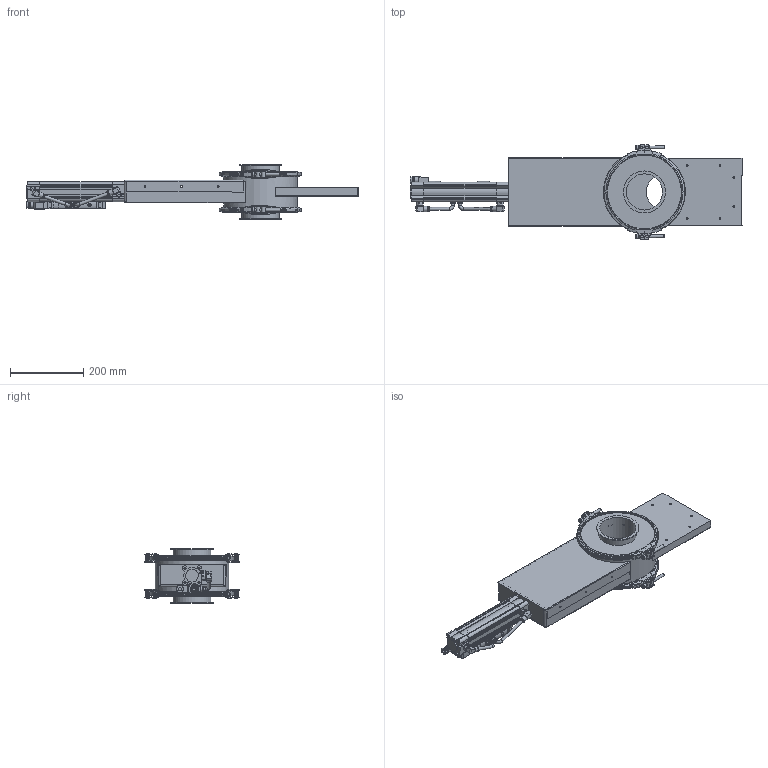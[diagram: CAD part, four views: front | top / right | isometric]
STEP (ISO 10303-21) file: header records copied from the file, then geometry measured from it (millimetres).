
FILE_DESCRIPTION((''),'2;1');
FILE_NAME('U:\Wolfgang\Marcel-3D\fertig\Kapitel 9\1021093.stp','2011-10-11T12:57:26',('iwienholt'),(''),'Autodesk Inventor 2010','Autodesk Inventor 2010','');
FILE_SCHEMA(('AUTOMOTIVE_DESIGN { 1 0 10303 214 1 1 1 1 }'));
Length unit declared in the file: millimetre
Products named in the file (24): 1021093; Einheit DN100; 2022055; 2022055-1; Verschluss b=224; Verschlussrolle; VerschlussrolleGewinde; ISO 4762 M8 x 70; 2022055-Dichtmasse; P.Schibereinheit DN100; Zylinder 40-160; 532743_DNCB_40_160_PPV_A_6_01; 532743_DNCB_40_160_PPV_A_6_02; 537600_VUVB_S_B42_ZD_Q8_3AC1_6_0; 537600_VUVB_S_B42_ZD_Q8_3AC1_6_01; 537600_VUVB_S_B42_ZD_Q8_3AC1_6_02; 537600_VUVB_S_B42_ZD_Q8_3AC1_6_03; 4527_MSFG_24_42_50_60_6_0; 4527_MSFG_24_42_50_60_6_01; 4527_MSFG_24_42_50_60_6_02; 153414_QSRL_1_4_8_6_0; schlauch; 13570_CRSG_M12x125_6_0; P.Schieber DN100
Assembly tree (33 placements, depth 4):
  1021093
    Einheit DN100
    2022055  x2
      2022055-1
      Verschluss b=224
      Verschlussrolle
      VerschlussrolleGewinde
      ISO 4762 M8 x 70
      2022055-Dichtmasse
    P.Schibereinheit DN100
      Zylinder 40-160
        532743_DNCB_40_160_PPV_A_6_01
        532743_DNCB_40_160_PPV_A_6_02
      537600_VUVB_S_B42_ZD_Q8_3AC1_6_0
        537600_VUVB_S_B42_ZD_Q8_3AC1_6_01
        537600_VUVB_S_B42_ZD_Q8_3AC1_6_02
        537600_VUVB_S_B42_ZD_Q8_3AC1_6_03
      4527_MSFG_24_42_50_60_6_0
        4527_MSFG_24_42_50_60_6_01
        4527_MSFG_24_42_50_60_6_02
      153414_QSRL_1_4_8_6_0  x2
      schlauch  x2
      13570_CRSG_M12x125_6_0
      P.Schieber DN100
Bounding box: 907.35 x 257.99 x 150 mm (x, y, z)
Volume: 2658727.2 mm3; surface area: 1228231.5 mm2
Topology: 40 solids, 40 shells, 1794 faces, 4594 edges, 2987 vertices
Faces by surface type: plane 751, cylinder 573, cone 228, bspline 200, torus 42
Full cylindrical faces by diameter (mm): 1 x3, 2.459 x1, 3 x2, 3.5 x1, 4 x1, 4.5 x1, 4.917 x8, 5 x21, 5.471 x2, 5.5 x1, 6 x21, 7.188 x1, 8 x29, 8.05 x1, 9 x1, 9.6 x2, 9.653 x1, 10.15 x2, 11.2 x2, 11.445 x2, 12 x12, 13 x4, 13.05 x2, 13.157 x2, 14 x6, 14.4 x4, 14.5 x2, 14.7 x6, 15.1 x2, 15.2 x1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
Entity records: 32976 total; most frequent: CARTESIAN_POINT 7647, DIRECTION 5276, ORIENTED_EDGE 4744, EDGE_CURVE 2372, AXIS2_PLACEMENT_3D 1978, VERTEX_POINT 1645, EDGE_LOOP 1421, VECTOR 1320
